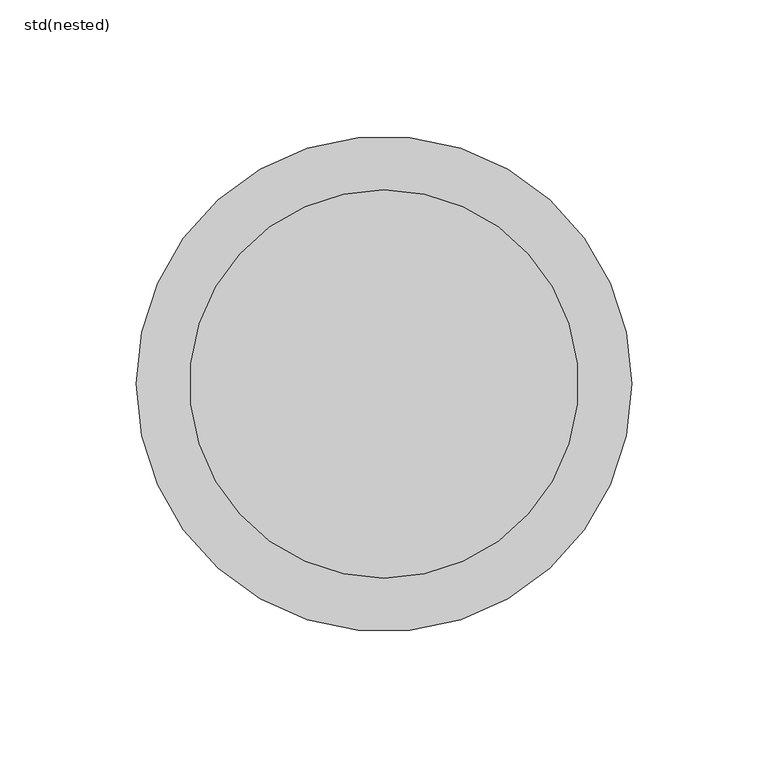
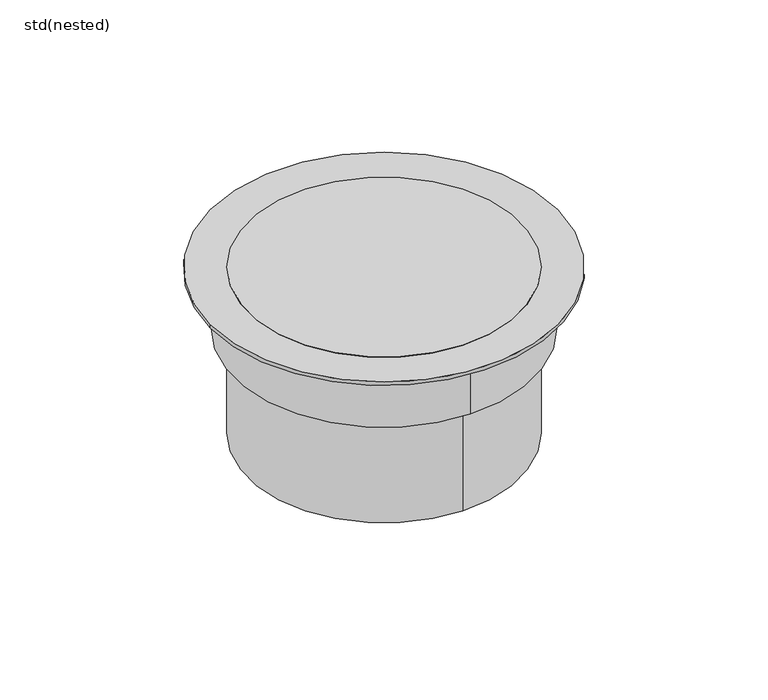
"""IFC4 building model written with IfcOpenShell, lengths in millimetres: sanitary terminal geometry, ZZZ_do not use_PF_ST_UN_raising piece telescopic hygienic gully_ACO : std(nested)."""

import ifcopenshell
import ifcopenshell.guid

model = None  # the IFC model being written
_history = None  # IfcOwnerHistory: only IFC2X3 demands one
_inside = {}  # id of a spatial element -> (the spatial element, [elements in it])
_under = {}  # id of a project, library or spatial element -> (it, [spatial elements below it])
_declared = {}  # id of a project -> (the project, [libraries it declares])
_typed = {}  # id of a type object -> (the type object, [elements of that type])
_made_of = {}  # id of a material, layer set ... -> (it, [elements and type objects made of it])


def new_model(schema):
    """Start an empty IFC model of exactly this schema.

    Asked for "IFC4X3", IfcOpenShell would pick the latest addendum, in which some entities
    have other attributes; the version numbers below select the first issue.
    IFC2X3 requires an IfcOwnerHistory on every rooted entity: one is made here for all.
    """
    global model, _history
    if schema == "IFC4X3":
        model = ifcopenshell.file(schema_version=(4, 3, 0, 0))
    else:
        model = ifcopenshell.file(schema=schema)
    _inside.clear()
    _under.clear()
    _declared.clear()
    _typed.clear()
    _made_of.clear()
    _history = None
    if model.schema == "IFC2X3":
        org = make("IfcOrganization", Name="unknown")
        user = make(
            "IfcPersonAndOrganization",
            ThePerson=make("IfcPerson", FamilyName="unknown"),
            TheOrganization=org,
        )
        app = make(
            "IfcApplication",
            ApplicationDeveloper=org,
            Version="unknown",
            ApplicationFullName="unknown",
            ApplicationIdentifier="unknown",
        )
        _history = make(
            "IfcOwnerHistory",
            OwningUser=user,
            OwningApplication=app,
            ChangeAction="ADDED",
            CreationDate=0,
        )
    return model


def make(cls, **values):
    """One entity of the class cls with the attributes given. An attribute that is None is left unset."""
    return model.create_entity(
        cls, **{name: value for name, value in values.items() if value is not None}
    )


def rooted(cls, **values):
    """An entity with a GlobalId (a new one), such as an element, a storey or a relation."""
    return make(cls, GlobalId=ifcopenshell.guid.new(), OwnerHistory=_history, **values)


def si_unit(unit_type, name, prefix=None):
    """IfcSIUnit, for example si_unit("LENGTHUNIT", "METRE", prefix="MILLI")."""
    return make("IfcSIUnit", UnitType=unit_type, Prefix=prefix, Name=name)


def assignment(units):
    """IfcUnitAssignment: the units of a project."""
    return None if units is None else make("IfcUnitAssignment", Units=units)


def point(xyz):
    """IfcCartesianPoint."""
    return None if xyz is None else make("IfcCartesianPoint", Coordinates=xyz)


def direction(xyz):
    """IfcDirection."""
    return None if xyz is None else make("IfcDirection", DirectionRatios=xyz)


def frame(location, z_axis=None, x_axis=None):
    """IfcAxis2Placement3D, a coordinate frame: its origin and axes. An axis left out is left unset."""
    return make(
        "IfcAxis2Placement3D",
        Location=point(location),
        Axis=direction(z_axis),
        RefDirection=direction(x_axis),
    )


def frame_2d(location, x_axis=None):
    """IfcAxis2Placement2D, a coordinate frame in the plane: its origin and x axis."""
    return make(
        "IfcAxis2Placement2D", Location=point(location), RefDirection=direction(x_axis)
    )


def origin():
    """The frame at (0, 0, 0) with its axes left unset."""
    return frame((0.0, 0.0, 0.0))


def origin_with_axes():
    """The frame at (0, 0, 0) with the z axis (0, 0, 1) and the x axis (1, 0, 0) written out."""
    return frame((0.0, 0.0, 0.0), z_axis=(0.0, 0.0, 1.0), x_axis=(1.0, 0.0, 0.0))


def origin_2d():
    """The frame at (0, 0) in the plane with its x axis left unset."""
    return frame_2d((0.0, 0.0))


def place(relative_to, where):
    """IfcLocalPlacement: puts the frame where relative to a parent placement (None: the world)."""
    return make(
        "IfcLocalPlacement", PlacementRelTo=relative_to, RelativePlacement=where
    )


def context(
    kind, dimensions, precision=None, world=None, true_north=None, identifier=None
):
    """IfcGeometricRepresentationContext, for example the 3D "Model" context."""
    return make(
        "IfcGeometricRepresentationContext",
        ContextIdentifier=identifier,
        ContextType=kind,
        CoordinateSpaceDimension=dimensions,
        Precision=precision,
        WorldCoordinateSystem=world,
        TrueNorth=true_north,
    )


def project(units=None, contexts=None):
    """IfcProject with its units and contexts."""
    return rooted(
        "IfcProject",
        Name="project",
        RepresentationContexts=contexts,
        UnitsInContext=assignment(units),
    )


def spatial(cls, under=None, at=None, **own):
    """A site, building, storey or space (cls), placed at a placement, below another one or the project."""
    s = rooted(cls, ObjectPlacement=at, **own)
    if under is not None:
        _under.setdefault(under.id(), (under, []))[1].append(s)
    return s


def circle_curve(where, radius):
    """IfcCircle in the frame where."""
    return make("IfcCircle", Position=where, Radius=radius)


def trimmed(basis, trim1, trim2, sense, master):
    """IfcTrimmedCurve: the piece of a basis curve between two trims."""
    return make(
        "IfcTrimmedCurve",
        BasisCurve=basis,
        Trim1=trim1,
        Trim2=trim2,
        SenseAgreement=sense,
        MasterRepresentation=master,
    )


def segment(curve, same_sense, transition):
    """IfcCompositeCurveSegment."""
    return make(
        "IfcCompositeCurveSegment",
        Transition=transition,
        SameSense=same_sense,
        ParentCurve=curve,
    )


def composite_curve(segments, self_intersect=None):
    """IfcCompositeCurve: segments joined end to end."""
    return make("IfcCompositeCurve", Segments=segments, SelfIntersect=self_intersect)


def outline(outer, holes=None, kind="AREA"):
    """IfcArbitraryClosedProfileDef: a profile drawn as a closed curve; with holes, ...WithVoids."""
    if holes is None:
        return make("IfcArbitraryClosedProfileDef", ProfileType=kind, OuterCurve=outer)
    return make(
        "IfcArbitraryProfileDefWithVoids",
        ProfileType=kind,
        OuterCurve=outer,
        InnerCurves=holes,
    )


def extrude(swept, where, along, depth):
    """IfcExtrudedAreaSolid: the profile swept, set in the frame where, extruded along a direction by depth."""
    return make(
        "IfcExtrudedAreaSolid",
        SweptArea=swept,
        Position=where,
        ExtrudedDirection=direction(along),
        Depth=depth,
    )


def shape(context_of_items, identifier, shape_type, items):
    """IfcShapeRepresentation: the items that make up one representation, for example the "Body"."""
    return make(
        "IfcShapeRepresentation",
        ContextOfItems=context_of_items,
        RepresentationIdentifier=identifier,
        RepresentationType=shape_type,
        Items=items,
    )


def source(mapping_origin, context_of_items, identifier, shape_type, items):
    """IfcRepresentationMap: a shape defined once, which mapped items show again and again."""
    return make(
        "IfcRepresentationMap",
        MappingOrigin=mapping_origin,
        MappedRepresentation=shape(context_of_items, identifier, shape_type, items),
    )


def transform(
    local_origin,
    x_axis=None,
    y_axis=None,
    z_axis=None,
    scale=None,
    scale2=None,
    scale3=None,
    uniform=True,
):
    """IfcCartesianTransformationOperator3D, or its non-uniform kind. x_axis, y_axis, z_axis: its Axis1, 2, 3."""
    if uniform:
        return make(
            "IfcCartesianTransformationOperator3D",
            Axis1=direction(x_axis),
            Axis2=direction(y_axis),
            LocalOrigin=point(local_origin),
            Scale=scale,
            Axis3=direction(z_axis),
        )
    return make(
        "IfcCartesianTransformationOperator3DnonUniform",
        Axis1=direction(x_axis),
        Axis2=direction(y_axis),
        LocalOrigin=point(local_origin),
        Scale=scale,
        Axis3=direction(z_axis),
        Scale2=scale2,
        Scale3=scale3,
    )


def mapped(mapping_source, mapping_target):
    """IfcMappedItem: shows the shape of a source again, moved by a transform."""
    return make(
        "IfcMappedItem", MappingSource=mapping_source, MappingTarget=mapping_target
    )


def made_of(thing, what):
    """Note that an element or type object is made of a material, layer set ...; save() writes the relation."""
    if what is not None:
        _made_of.setdefault(what.id(), (what, []))[1].append(thing)
    return thing


def element(
    cls,
    number,
    at=None,
    inside=None,
    cuts=None,
    type_object=None,
    material=None,
    context=None,
    identifier="Body",
    shape_type=None,
    held_by="IfcProductDefinitionShape",
    body=None,
    shapes=None,
    **own,
):
    """One element of the class cls, such as IfcWall. Its Tag is "e" and its number.

    at: its placement. inside: the storey or other place that contains it. cuts: it is an
    opening in that element (IfcRelVoidsElement). A single representation is given by context,
    identifier, shape_type and body (its items); several are given by shapes. held_by: the class
    of the entity that holds the representations. save() writes the other relations.
    """
    e = rooted(cls, Tag="e%d" % number, ObjectPlacement=at, **own)
    if body is not None:
        shapes = [shape(context, identifier, shape_type, body)]
    if shapes is not None:
        e.Representation = make(held_by, Representations=shapes)
    if inside is not None:
        _inside.setdefault(inside.id(), (inside, []))[1].append(e)
    if cuts is not None:
        rooted(
            "IfcRelVoidsElement", RelatingBuildingElement=cuts, RelatedOpeningElement=e
        )
    if type_object is not None:
        _typed.setdefault(type_object.id(), (type_object, []))[1].append(e)
    return made_of(e, material)


def aggregate(whole, parts):
    """IfcRelAggregates: a whole, such as a stair, and the parts it consists of."""
    return rooted("IfcRelAggregates", RelatingObject=whole, RelatedObjects=parts)


def save(model, path):
    """Write the relations noted so far, then the file.

    IfcRelAggregates (storeys below a building ...), IfcRelContainedInSpatialStructure (elements
    in a storey), IfcRelDefinesByType, IfcRelAssociatesMaterial and IfcRelDeclares: one each for
    every whole, place, type object, material and project.
    """
    for whole, parts in _under.values():
        aggregate(whole, parts)
    for where, things in _inside.values():
        rooted(
            "IfcRelContainedInSpatialStructure",
            RelatedElements=things,
            RelatingStructure=where,
        )
    for kind, things in _typed.values():
        rooted("IfcRelDefinesByType", RelatedObjects=things, RelatingType=kind)
    for what, things in _made_of.values():
        rooted("IfcRelAssociatesMaterial", RelatedObjects=things, RelatingMaterial=what)
    for by, libraries in _declared.values():
        rooted("IfcRelDeclares", RelatingContext=by, RelatedDefinitions=libraries)
    model.write(path)


def plane_surface(at):
    """IfcPlane: the flat surface through the origin of the frame at, square to its z axis."""
    return make("IfcPlane", Position=at)


def cylinder_surface(at, radius):
    """IfcCylindricalSurface: all points at the distance radius from the z axis of the frame at."""
    return make("IfcCylindricalSurface", Position=at, Radius=radius)


def advanced_brep(points, edges, surfaces, faces):
    """IfcAdvancedBrep: a solid bounded by faces that lie on surfaces and meet in shared edges.

    An edge is (start, end): straight between two places in points (the first is 0);
    or (start, end, curve); or (start, end, curve, False) where it runs against its curve.
    A face is (place in surfaces, loops), or (place, loops, False) where it looks against
    its surface's normal. A loop lists edges by number (the first is 1), with a minus sign
    where the edge is run from its end to its start. The first loop is the outer one.
    """
    corners = [point(p) for p in points]
    vertices = [make("IfcVertexPoint", VertexGeometry=c) for c in corners]
    made = []
    for start, end, *more in edges:
        made.append(
            make(
                "IfcEdgeCurve",
                EdgeStart=vertices[start],
                EdgeEnd=vertices[end],
                EdgeGeometry=more[0] if more else make("IfcPolyline", Points=[corners[start], corners[end]]),
                SameSense=more[1] if len(more) > 1 else True,
            )
        )
    hull = []
    for where, loops, *sense in faces:
        bounds = []
        for j, loop in enumerate(loops):
            ring = [make("IfcOrientedEdge", EdgeElement=made[abs(k) - 1], Orientation=k > 0) for k in loop]
            bounds.append(
                make(
                    "IfcFaceOuterBound" if j == 0 else "IfcFaceBound",
                    Bound=make("IfcEdgeLoop", EdgeList=ring),
                    Orientation=True,
                )
            )
        hull.append(make("IfcAdvancedFace", Bounds=bounds, FaceSurface=surfaces[where], SameSense=sense[0] if sense else True))
    return make("IfcAdvancedBrep", Outer=make("IfcClosedShell", CfsFaces=hull))


def std_nested_b1805f10(model_context):
    return source(origin(), model_context, "Body", "SolidModel", [
        extrude(outline(composite_curve([segment(trimmed(circle_curve(origin_2d(), 71.3), [point((0.0, -71.3))], [point((0.0, 71.3))], False, "CARTESIAN"), True, "CONTINUOUS"), segment(trimmed(circle_curve(origin_2d(), 71.3), [point((0.0, 71.3))], [point((0.0, -71.3))], False, "CARTESIAN"), True, "CONTINUOUS")], self_intersect=False)), frame((0.0, 0.0, -92.0), z_axis=(0.0, 0.0, 1.0), x_axis=(1.0, 0.0, 0.0)), (0.0, 0.0, 1.0), 92.0),
        advanced_brep(
        [(0.0, -78.5, -34.0), (0.0, 78.5, -34.0), (-91.0, 0.0, 0.0), (91.0, 0.0, 0.0), (0.0, -78.5, -2.0), (0.0, 78.5, -2.0), (-91.0, 0.0, -2.0), (91.0, 0.0, -2.0)],
        [
            (0, 1, circle_curve(frame((0.0, 0.0, -34.0), z_axis=(0.0, 0.0, -1.0), x_axis=(0.0, 1.0, 0.0)), 78.5)),
            (1, 0, circle_curve(frame((0.0, 0.0, -34.0), z_axis=(0.0, 0.0, -1.0), x_axis=(0.0, 1.0, 0.0)), 78.5)),
            (2, 3, circle_curve(origin_with_axes(), 91.0)),
            (3, 2, circle_curve(origin_with_axes(), 91.0)),
            (0, 4),
            (4, 5, circle_curve(frame((0.0, 0.0, -2.0), z_axis=(0.0, 0.0, -1.0), x_axis=(0.0, 1.0, 0.0)), 78.5)),
            (5, 1),
            (5, 4, circle_curve(frame((0.0, 0.0, -2.0), z_axis=(0.0, 0.0, -1.0), x_axis=(0.0, 1.0, 0.0)), 78.5)),
            (6, 7, circle_curve(frame((0.0, 0.0, -2.0), z_axis=(0.0, 0.0, -1.0), x_axis=(1.0, 0.0, 0.0)), 91.0)),
            (7, 6, circle_curve(frame((0.0, 0.0, -2.0), z_axis=(0.0, 0.0, -1.0), x_axis=(1.0, 0.0, 0.0)), 91.0)),
            (7, 3),
            (2, 6),
        ],
        [
            plane_surface(frame((0.0, 78.5, -34.0), z_axis=(0.0, 0.0, -1.0), x_axis=(1.0, 0.0, 0.0))),
            plane_surface(frame((0.0, 78.5, 0.0), z_axis=(0.0, 0.0, 1.0), x_axis=(-1.0, 0.0, 0.0))),
            cylinder_surface(frame((0.0, 0.0, 0.0), z_axis=(0.0, 0.0, -1.0), x_axis=(0.0, 1.0, 0.0)), 78.5),
            plane_surface(frame((91.0, 0.0, -2.0), z_axis=(0.0, 0.0, -1.0), x_axis=(0.0, -1.0, 0.0))),
            cylinder_surface(frame((0.0, 0.0, -2.0), z_axis=(0.0, 0.0, 1.0), x_axis=(1.0, 0.0, 0.0)), 91.0),
        ],
        [
            (0, [[1, 2]]),
            (1, [[3, 4]]),
            (2, [[-1, 5, 6, 7]]),
            (2, [[-2, -7, 8, -5]]),
            (3, [[9, 10], [-6, -8]]),
            (4, [[-10, 11, -3, 12]]),
            (4, [[-9, -12, -4, -11]]),
        ],
    ),
    ])


if __name__ == "__main__":
    model = new_model("IFC4")
    model_context = context("Model", 3, world=origin())
    ifc_project = project(units=[si_unit("LENGTHUNIT", "METRE", prefix="MILLI")], contexts=[model_context])
    site = spatial("IfcSite", under=ifc_project)
    building = spatial("IfcBuilding", under=site)
    placement = place(None, origin())
    std_nested_shape = std_nested_b1805f10(model_context)
    element("IfcSanitaryTerminal", 1, ObjectType="ZZZ_do not use_PF_ST_UN_raising piece telescopic hygienic gully_ACO : std(nested)", at=placement, inside=building, context=model_context, shape_type="MappedRepresentation", body=[
        mapped(std_nested_shape, transform((0.0, 0.0, 0.0), x_axis=(1.0, 0.0, 0.0), y_axis=(0.0, 1.0, 0.0), z_axis=(0.0, 0.0, 1.0))),
    ])
    save(model, "model.ifc")
